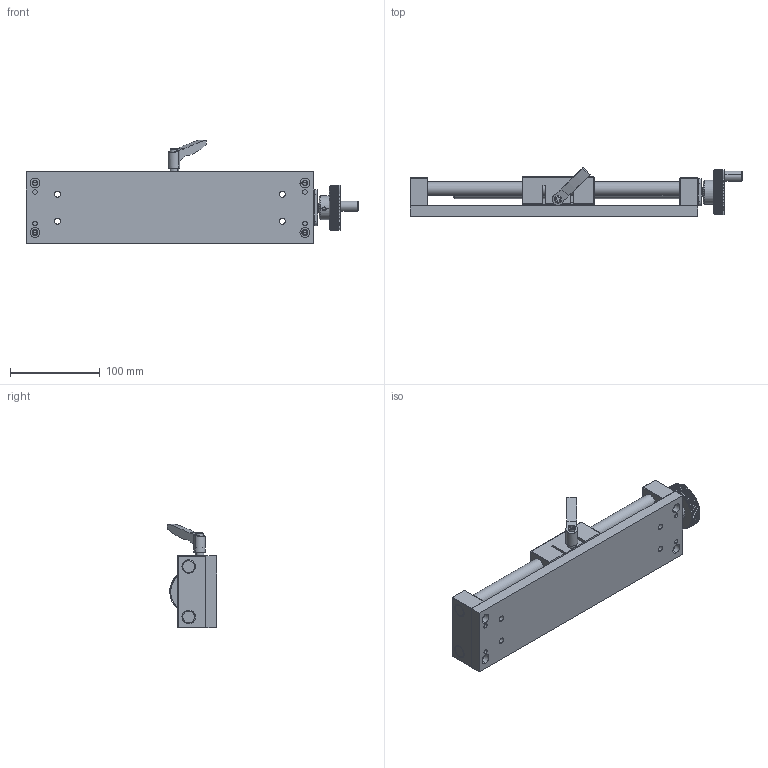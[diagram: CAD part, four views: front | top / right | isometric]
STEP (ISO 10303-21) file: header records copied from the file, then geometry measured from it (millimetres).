
FILE_DESCRIPTION (( 'STEP AP203' ), '1' );
FILE_NAME ('TCD-XKST200 进给丝杠式简易滑台.STEP', '2019-12-14T02:39:47', ( 'User' ), ( 'china' ), 'SwSTEP 2.0', 'SolidWorks 2016', '' );
FILE_SCHEMA (( 'CONFIG_CONTROL_DESIGN' ));
Length unit declared in the file: millimetre
Products named in the file (16): _CLDM6-20-B_1; TCD-XKST-004 綴盓傅釱; _CLDM6-8-B_2; TCD-XKST-005 ヶ盓傅釱; 嘐隅參忒 CLDM6-20-B; TCD-XKST-006 賑釱; 儕躇蹟譫M10x1.0; TCD-XKST-007 粣創揤裔; TCD-XKST200 进给丝杠式简易滑台; TCD-XKST-008 唅聽; TCD-XKST-009 苤參忒; TCD-XKST200-001 賑怢菁釱; TCD-XKST-010 肣蹟譫; TCD-XKST200-002 絳砃粣; 旮僱⑩粣創 B6000ZZ; TCD-XKST200-003 蹟裝
Assembly tree (16 placements, depth 3):
  TCD-XKST200 进给丝杠式简易滑台
    TCD-XKST200-001 賑怢菁釱
    TCD-XKST200-002 絳砃粣  x2
    TCD-XKST200-003 蹟裝
    TCD-XKST-004 綴盓傅釱
    TCD-XKST-005 ヶ盓傅釱
    TCD-XKST-006 賑釱
    TCD-XKST-007 粣創揤裔
    TCD-XKST-008 唅聽
    TCD-XKST-009 苤參忒
    TCD-XKST-010 肣蹟譫
    旮僱⑩粣創 B6000ZZ
    嘐隅參忒 CLDM6-20-B
      _CLDM6-20-B_1
      _CLDM6-8-B_2
    儕躇蹟譫M10x1.0
Bounding box: 369 x 54.71 x 115 mm (x, y, z)
Volume: 687842.9 mm3; surface area: 189293.7 mm2
Topology: 15 solids, 15 shells, 928 faces, 2180 edges, 1280 vertices
Faces by surface type: plane 361, cylinder 309, cone 248, torus 8, bspline 2
Entity records: 28653 total; most frequent: CARTESIAN_POINT 6218, DIRECTION 4404, ORIENTED_EDGE 4248, EDGE_CURVE 2124, AXIS2_PLACEMENT_3D 1770, VERTEX_POINT 1260, EDGE_LOOP 1042, ADVANCED_FACE 914
